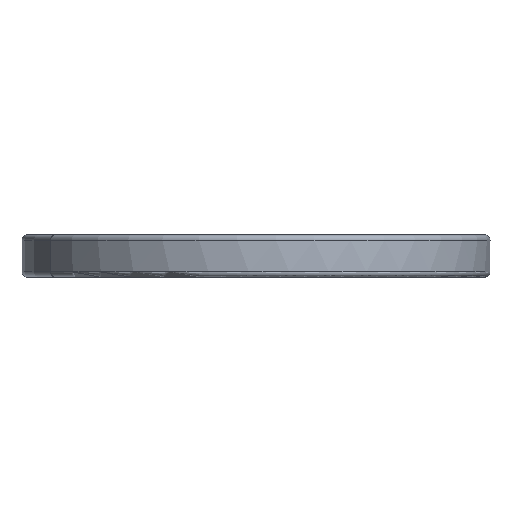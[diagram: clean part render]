
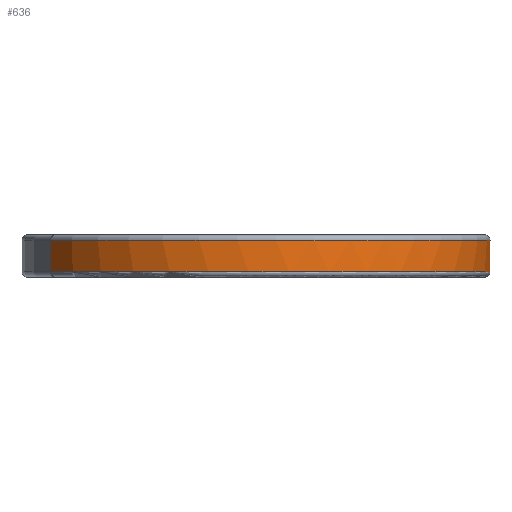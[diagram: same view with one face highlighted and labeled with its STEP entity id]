
A CAD part, left-side view. The second image highlights one B-rep face of the part: STEP entity #636.
In plain terms, the highlighted cylindrical face has radius 44.15 mm (diameter 88.3 mm), a partial arc.
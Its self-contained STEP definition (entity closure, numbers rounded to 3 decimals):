
#494=AXIS2_PLACEMENT_3D('Circle Axis2P3D',#492,#493,$) ;
#511=AXIS2_PLACEMENT_3D('Circle Axis2P3D',#509,#510,$) ;
#600=AXIS2_PLACEMENT_3D('Cylinder Axis2P3D',#597,#598,#599) ;
#618=AXIS2_PLACEMENT_3D('Circle Axis2P3D',#616,#617,$) ;
#625=AXIS2_PLACEMENT_3D('Circle Axis2P3D',#623,#624,$) ;
#473=CARTESIAN_POINT('Vertex',(1032.72,-579.826,268.895)) ;
#489=CARTESIAN_POINT('Vertex',(1004.226,-497.517,268.895)) ;
#492=CARTESIAN_POINT('Axis2P3D Location',(1025.324,-536.3,268.895)) ;
#509=CARTESIAN_POINT('Axis2P3D Location',(1025.324,-536.3,268.895)) ;
#513=CARTESIAN_POINT('Vertex',(1046.422,-575.082,268.895)) ;
#597=CARTESIAN_POINT('Axis2P3D Location',(1025.324,-536.3,265.895)) ;
#602=CARTESIAN_POINT('Line Origine',(1046.422,-575.082,265.895)) ;
#606=CARTESIAN_POINT('Vertex',(1046.422,-575.082,262.895)) ;
#609=CARTESIAN_POINT('Line Origine',(1004.226,-497.517,265.895)) ;
#613=CARTESIAN_POINT('Vertex',(1004.226,-497.517,262.895)) ;
#616=CARTESIAN_POINT('Axis2P3D Location',(1025.324,-536.3,262.895)) ;
#620=CARTESIAN_POINT('Vertex',(1038.755,-578.357,262.895)) ;
#623=CARTESIAN_POINT('Axis2P3D Location',(1025.324,-536.3,262.895)) ;
#493=DIRECTION('Axis2P3D Direction',(0.,0.,1.)) ;
#510=DIRECTION('Axis2P3D Direction',(0.,0.,1.)) ;
#598=DIRECTION('Axis2P3D Direction',(0.,0.,1.)) ;
#599=DIRECTION('Axis2P3D XDirection',(-0.478,0.878,0.)) ;
#603=DIRECTION('Vector Direction',(0.,0.,1.)) ;
#610=DIRECTION('Vector Direction',(0.,0.,1.)) ;
#617=DIRECTION('Axis2P3D Direction',(0.,0.,1.)) ;
#624=DIRECTION('Axis2P3D Direction',(0.,0.,1.)) ;
#604=VECTOR('Line Direction',#603,1.) ;
#611=VECTOR('Line Direction',#610,1.) ;
#629=ORIENTED_EDGE('',*,*,#608,.T.) ;
#630=ORIENTED_EDGE('',*,*,#515,.F.) ;
#631=ORIENTED_EDGE('',*,*,#496,.F.) ;
#632=ORIENTED_EDGE('',*,*,#615,.F.) ;
#633=ORIENTED_EDGE('',*,*,#622,.T.) ;
#634=ORIENTED_EDGE('',*,*,#627,.T.) ;
#636=ADVANCED_FACE('\X2\88C5914D524D\X0\',(#635),#601,.T.) ;
#495=CIRCLE('generated circle',#494,44.15) ;
#512=CIRCLE('generated circle',#511,44.15) ;
#619=CIRCLE('generated circle',#618,44.15) ;
#626=CIRCLE('generated circle',#625,44.15) ;
#601=CYLINDRICAL_SURFACE('generated cylinder',#600,44.15) ;
#496=EDGE_CURVE('',#490,#474,#495,.T.) ;
#515=EDGE_CURVE('',#474,#514,#512,.T.) ;
#608=EDGE_CURVE('',#607,#514,#605,.T.) ;
#615=EDGE_CURVE('',#614,#490,#612,.T.) ;
#622=EDGE_CURVE('',#614,#621,#619,.T.) ;
#627=EDGE_CURVE('',#621,#607,#626,.T.) ;
#628=EDGE_LOOP('',(#629,#630,#631,#632,#633,#634)) ;
#635=FACE_OUTER_BOUND('',#628,.T.) ;
#605=LINE('Line',#602,#604) ;
#612=LINE('Line',#609,#611) ;
#474=VERTEX_POINT('',#473) ;
#490=VERTEX_POINT('',#489) ;
#514=VERTEX_POINT('',#513) ;
#607=VERTEX_POINT('',#606) ;
#614=VERTEX_POINT('',#613) ;
#621=VERTEX_POINT('',#620) ;
